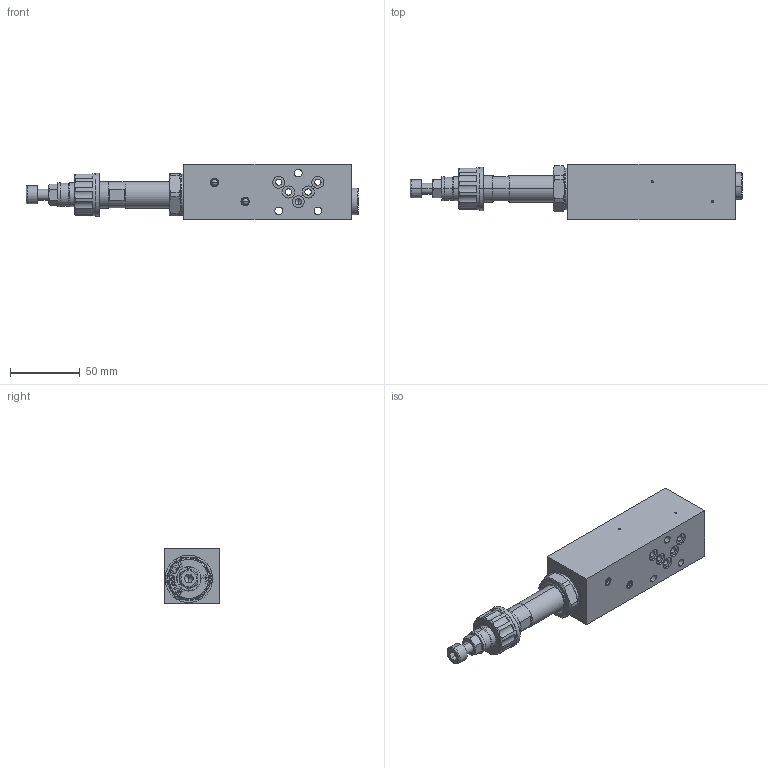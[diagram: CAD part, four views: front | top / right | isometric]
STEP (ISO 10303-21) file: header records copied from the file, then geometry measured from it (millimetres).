
FILE_DESCRIPTION (( 'STEP AP214' ), '1' );
FILE_NAME ('M.ISA04-P.STEP', '2017-03-31T06:07:30', ( '' ), ( '' ), 'SwSTEP 2.0', 'SolidWorks 2016', '' );
FILE_SCHEMA (( 'AUTOMOTIVE_DESIGN' ));
Length unit declared in the file: millimetre
Products named in the file (1): M.ISA04-P
Bounding box: 237.5 x 39.5 x 40 mm (x, y, z)
Volume: 222021.1 mm3; surface area: 40258.1 mm2
Topology: 6 solids, 11 shells, 490 faces, 1173 edges, 731 vertices
Faces by surface type: plane 193, cylinder 138, cone 87, bspline 38, torus 18, sphere 16
Entity records: 20988 total; most frequent: CARTESIAN_POINT 4277, DIRECTION 2369, ORIENTED_EDGE 2298, EDGE_CURVE 1149, AXIS2_PLACEMENT_3D 893, VERTEX_POINT 731, VECTOR 583, LINE 583
